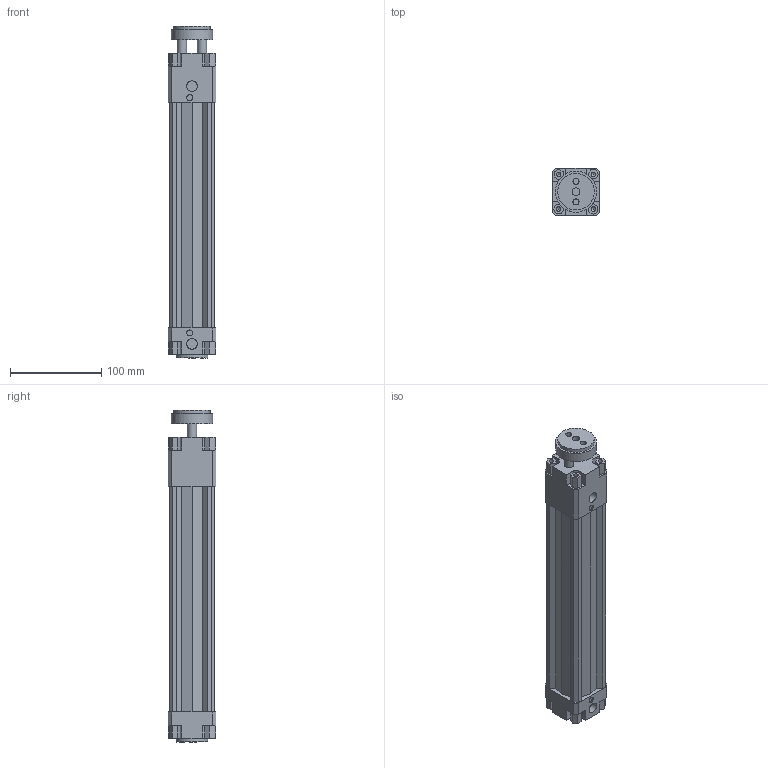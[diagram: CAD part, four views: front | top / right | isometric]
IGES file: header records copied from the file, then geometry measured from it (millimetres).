
Global section: file name: 134#_040_0200_01; native system: Autodesk Inventor 2014; preprocessor: unknown; author: A. Manieri; date: 20161006.164300; units: millimetre
Bounding box: 52 x 52 x 364 mm (x, y, z)
Volume: 496347.1 mm3; surface area: 149708.9 mm2
Topology: 2 solids, 2 shells, 180 faces, 492 edges, 336 vertices
Faces by surface type: bspline 180
